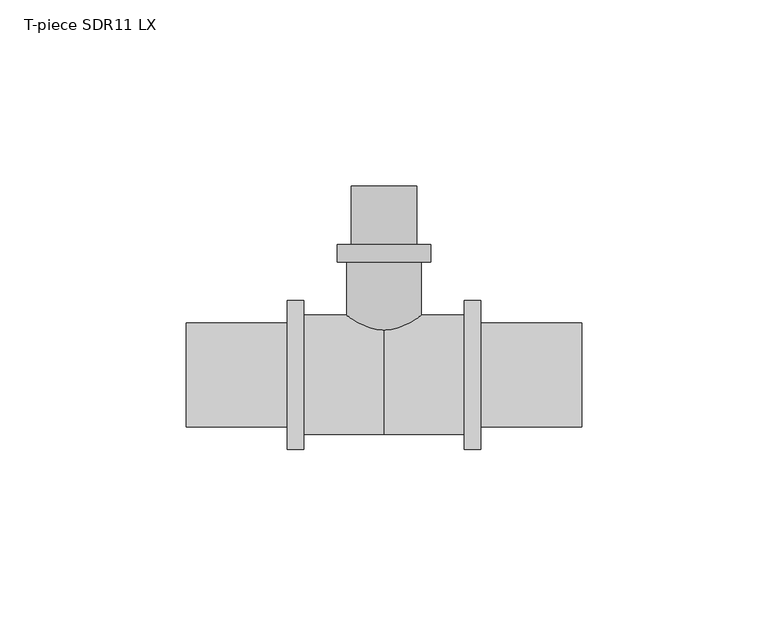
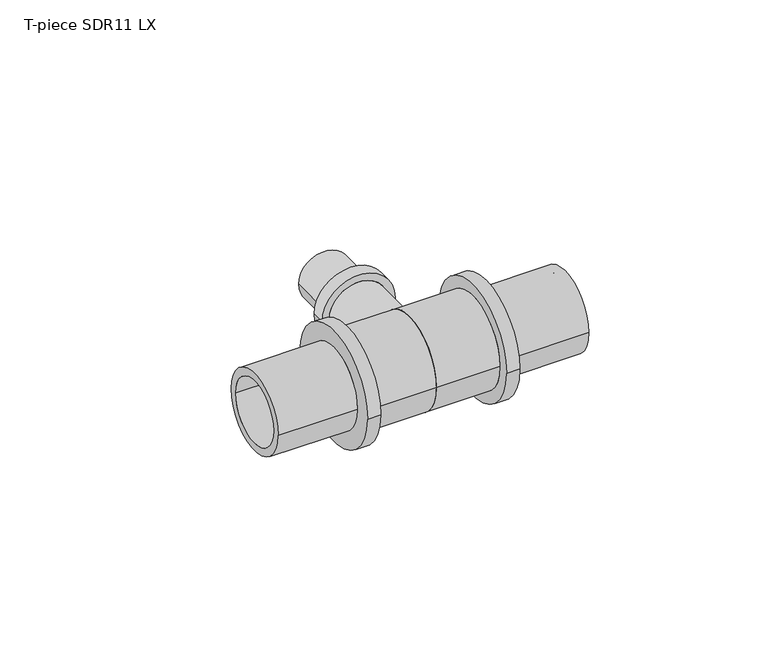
"""IFC4 building model written with IfcOpenShell, lengths in millimetres: pipe fitting geometry, T-piece SDR11 LX : T-piece LX SDR11 LX."""

from ifc_helpers import new_model, si_unit, point, frame, origin, place, context, project, spatial, polyline, circle_curve, ellipse_curve, trimmed, source, transform, mapped, element, save
from ifc_brep_helpers import plane_surface, cylinder_surface, revolved_surface, advanced_brep


def t_piece_sdr11_lx_472ff839(model_context):
    return source(origin(), model_context, "Body", "AdvancedBrep", [
        advanced_brep(
        [(10.0, 1.3944811, 0.0), (-10.0, 1.3944811, 0.0), (-10.0, 30.3, 0.0), (10.0, 30.3, 0.0), (6.8, 50.6, 0.0), (-6.8, 50.6, 0.0), (-6.8, 0.0, 0.0), (6.8, 0.0, 0.0), (8.8, 35.0, 0.0), (-8.8, 35.0, 0.0), (-8.8, 50.6, 0.0), (8.8, 50.6, 0.0), (12.5, 30.3, 0.0), (-12.5, 30.3, 0.0), (-12.5, 35.0, 0.0), (12.5, 35.0, 0.0)],
        [
            (0, 1, circle_curve(frame((0.0, 1.3944811, 0.0), z_axis=(0.0, 1.0, 0.0), x_axis=(-1.0, 0.0, 0.0)), 10.0)),
            (1, 2),
            (2, 3, circle_curve(frame((0.0, 30.3, 0.0), z_axis=(0.0, -1.0, 0.0), x_axis=(-1.0, 0.0, 0.0)), 10.0)),
            (3, 0),
            (4, 5, circle_curve(frame((0.0, 50.6, 0.0), z_axis=(0.0, 1.0, 0.0), x_axis=(-1.0, 0.0, 0.0)), 6.8)),
            (5, 6),
            (6, 7, circle_curve(frame((0.0, 0.0, 0.0), z_axis=(0.0, -1.0, 0.0), x_axis=(-1.0, 0.0, 0.0)), 6.8)),
            (7, 4),
            (8, 9, circle_curve(frame((0.0, 35.0, 0.0), z_axis=(0.0, 1.0, 0.0), x_axis=(-1.0, 0.0, 0.0)), 8.8)),
            (9, 10),
            (10, 11, circle_curve(frame((0.0, 50.6, 0.0), z_axis=(0.0, -1.0, 0.0), x_axis=(-1.0, 0.0, 0.0)), 8.8)),
            (11, 8),
            (12, 13, circle_curve(frame((0.0, 30.3, 0.0), z_axis=(0.0, 1.0, 0.0), x_axis=(-1.0, 0.0, 0.0)), 12.5)),
            (13, 14),
            (14, 15, circle_curve(frame((0.0, 35.0, 0.0), z_axis=(0.0, -1.0, 0.0), x_axis=(-1.0, 0.0, 0.0)), 12.5)),
            (15, 12),
            (12, 13, circle_curve(frame((0.0, 30.3, 0.0), z_axis=(0.0, -1.0, 0.0), x_axis=(1.0, 0.0, 0.0)), 12.5)),
            (2, 3, circle_curve(frame((0.0, 30.3, 0.0), z_axis=(0.0, 1.0, 0.0), x_axis=(1.0, 0.0, 0.0)), 10.0)),
            (1, 0, circle_curve(frame((0.0, 1.3944811, 0.0), z_axis=(0.0, 1.0, 0.0), x_axis=(1.0, 0.0, 0.0)), 10.0)),
            (5, 4, circle_curve(frame((0.0, 50.6, 0.0), z_axis=(0.0, 1.0, 0.0), x_axis=(1.0, 0.0, 0.0)), 6.8)),
            (7, 6, circle_curve(frame((0.0, 0.0, 0.0), z_axis=(0.0, -1.0, 0.0), x_axis=(1.0, 0.0, 0.0)), 6.8)),
            (10, 11, circle_curve(frame((0.0, 50.6, 0.0), z_axis=(0.0, 1.0, 0.0), x_axis=(1.0, 0.0, 0.0)), 8.8)),
            (9, 8, circle_curve(frame((0.0, 35.0, 0.0), z_axis=(0.0, 1.0, 0.0), x_axis=(1.0, 0.0, 0.0)), 8.8)),
            (14, 15, circle_curve(frame((0.0, 35.0, 0.0), z_axis=(0.0, 1.0, 0.0), x_axis=(1.0, 0.0, 0.0)), 12.5)),
            (6, 1, circle_curve(frame((-2.0462802, 15.2775046, 0.0), z_axis=(0.0, 0.0, -1.0), x_axis=(0.0, -1.0, 0.0)), 16.0)),
            (0, 7, circle_curve(frame((2.0462802, 15.2775046, 0.0), z_axis=(0.0, 0.0, -1.0), x_axis=(0.0, -1.0, 0.0)), 16.0)),
        ],
        [
            cylinder_surface(frame((0.0, 0.0, 0.0), z_axis=(0.0, -1.0, 0.0), x_axis=(-1.0, 0.0, 0.0)), 10.0),
            revolved_surface(polyline([(-6.8, 0.0, 0.0), (-6.8, 50.6, 0.0)]), (0.0, 0.0, 0.0), (0.0, -1.0, 0.0)),
            cylinder_surface(frame((0.0, 0.0, 0.0), z_axis=(0.0, -1.0, 0.0), x_axis=(-1.0, 0.0, 0.0)), 8.8),
            cylinder_surface(frame((0.0, 0.0, 0.0), z_axis=(0.0, -1.0, 0.0), x_axis=(-1.0, 0.0, 0.0)), 12.5),
            plane_surface(frame((0.0, 30.3, 0.0), z_axis=(0.0, -1.0, 0.0), x_axis=(1.0, 0.0, 0.0))),
            cylinder_surface(frame((0.0, 0.0, 0.0), z_axis=(0.0, -1.0, 0.0), x_axis=(1.0, 0.0, 0.0)), 10.0),
            revolved_surface(polyline([(6.8, 0.0, 0.0), (6.8, 50.6, 0.0)]), (0.0, 0.0, 0.0), (0.0, -1.0, 0.0)),
            plane_surface(frame((0.0, 50.6, 0.0), z_axis=(0.0, 1.0, 0.0), x_axis=(1.0, 0.0, 0.0))),
            cylinder_surface(frame((0.0, 0.0, 0.0), z_axis=(0.0, -1.0, 0.0), x_axis=(1.0, 0.0, 0.0)), 8.8),
            plane_surface(frame((0.0, 35.0, 0.0), z_axis=(0.0, 1.0, 0.0), x_axis=(1.0, 0.0, 0.0))),
            cylinder_surface(frame((0.0, 0.0, 0.0), z_axis=(0.0, -1.0, 0.0), x_axis=(1.0, 0.0, 0.0)), 12.5),
            revolved_surface(trimmed(ellipse_curve(frame((-2.0462802, 15.2775046, 0.0), z_axis=(0.0, 0.0, 1.0), x_axis=(0.0, -1.0, 0.0)), 16.0, 16.0), [point((-10.0, 1.3944811, 0.0))], [point((-6.8, 0.0, 0.0))], True, "CARTESIAN"), (0.0, 0.0, 0.0), (0.0, -1.0, 0.0)),
            revolved_surface(trimmed(ellipse_curve(frame((2.0462802, 15.2775046, 0.0), z_axis=(0.0, 0.0, -1.0), x_axis=(0.0, -1.0, 0.0)), 16.0, 16.0), [point((10.0, 1.3944811, 0.0))], [point((6.8, 0.0, 0.0))], True, "CARTESIAN"), (0.0, 0.0, 0.0), (0.0, -1.0, 0.0)),
        ],
        [
            (0, [[1, 2, 3, 4]]),
            (1, [[5, 6, 7, 8]]),
            (2, [[9, 10, 11, 12]]),
            (3, [[13, 14, 15, 16]]),
            (4, [[17, -13], [18, -3]]),
            (5, [[19, -4, -18, -2]]),
            (6, [[20, -8, 21, -6]]),
            (7, [[22, -11], [-20, -5]]),
            (8, [[23, -12, -22, -10]]),
            (9, [[24, -15], [-23, -9]]),
            (10, [[-17, -16, -24, -14]]),
            (11, [[-7, 25, -1, 26]]),
            (12, [[-21, -26, -19, -25]]),
        ],
    ),
        advanced_brep(
        [(21.5, 16.0, 0.0), (21.5, -16.0, 0.0), (0.0, -16.0, 0.0), (0.0, 16.0, 0.0), (0.0, 11.2, 0.0), (0.0, -11.2, 0.0), (53.0, -11.2, 0.0), (53.0, 11.2, 0.0), (53.0, 13.95, 0.0), (53.0, -13.95, 0.0), (26.0, -13.95, 0.0), (26.0, 13.95, 0.0), (26.0, 20.0, 0.0), (26.0, -20.0, 0.0), (21.5, -20.0, 0.0), (21.5, 20.0, 0.0)],
        [
            (0, 1, circle_curve(frame((21.5, 0.0, 0.0), z_axis=(-1.0, 0.0, 0.0), x_axis=(0.0, -1.0, 0.0)), 16.0)),
            (1, 2),
            (2, 3, circle_curve(frame((0.0, 0.0, 0.0), z_axis=(1.0, 0.0, 0.0), x_axis=(0.0, -1.0, 0.0)), 16.0)),
            (3, 0),
            (4, 5, circle_curve(frame((0.0, 0.0, 0.0), z_axis=(-1.0, 0.0, 0.0), x_axis=(0.0, -1.0, 0.0)), 11.2)),
            (5, 6),
            (6, 7, circle_curve(frame((53.0, 0.0, 0.0), z_axis=(1.0, 0.0, 0.0), x_axis=(0.0, -1.0, 0.0)), 11.2)),
            (7, 4),
            (8, 9, circle_curve(frame((53.0, 0.0, 0.0), z_axis=(-1.0, 0.0, 0.0), x_axis=(0.0, -1.0, 0.0)), 13.95)),
            (9, 10),
            (10, 11, circle_curve(frame((26.0, 0.0, 0.0), z_axis=(1.0, 0.0, 0.0), x_axis=(0.0, -1.0, 0.0)), 13.95)),
            (11, 8),
            (12, 13, circle_curve(frame((26.0, 0.0, 0.0), z_axis=(-1.0, 0.0, 0.0), x_axis=(0.0, -1.0, 0.0)), 20.0)),
            (13, 14),
            (14, 15, circle_curve(frame((21.5, 0.0, 0.0), z_axis=(1.0, 0.0, 0.0), x_axis=(0.0, -1.0, 0.0)), 20.0)),
            (15, 12),
            (14, 15, circle_curve(frame((21.5, 0.0, 0.0), z_axis=(-1.0, 0.0, 0.0), x_axis=(0.0, 1.0, 0.0)), 20.0)),
            (0, 1, circle_curve(frame((21.5, 0.0, 0.0), z_axis=(1.0, 0.0, 0.0), x_axis=(0.0, 1.0, 0.0)), 16.0)),
            (3, 2, circle_curve(frame((0.0, 0.0, 0.0), z_axis=(1.0, 0.0, 0.0), x_axis=(0.0, 1.0, 0.0)), 16.0)),
            (4, 5, circle_curve(frame((0.0, 0.0, 0.0), z_axis=(1.0, 0.0, 0.0), x_axis=(0.0, 1.0, 0.0)), 11.2)),
            (7, 6, circle_curve(frame((53.0, 0.0, 0.0), z_axis=(1.0, 0.0, 0.0), x_axis=(0.0, 1.0, 0.0)), 11.2)),
            (8, 9, circle_curve(frame((53.0, 0.0, 0.0), z_axis=(1.0, 0.0, 0.0), x_axis=(0.0, 1.0, 0.0)), 13.95)),
            (11, 10, circle_curve(frame((26.0, 0.0, 0.0), z_axis=(1.0, 0.0, 0.0), x_axis=(0.0, 1.0, 0.0)), 13.95)),
            (12, 13, circle_curve(frame((26.0, 0.0, 0.0), z_axis=(1.0, 0.0, 0.0), x_axis=(0.0, 1.0, 0.0)), 20.0)),
        ],
        [
            cylinder_surface(frame((0.0, 0.0, 0.0), z_axis=(1.0, 0.0, 0.0), x_axis=(0.0, -1.0, 0.0)), 16.0),
            revolved_surface(polyline([(53.0, -11.2, 0.0), (0.0, -11.2, 0.0)]), (0.0, 0.0, 0.0), (1.0, 0.0, 0.0)),
            cylinder_surface(frame((0.0, 0.0, 0.0), z_axis=(1.0, 0.0, 0.0), x_axis=(0.0, -1.0, 0.0)), 13.95),
            cylinder_surface(frame((0.0, 0.0, 0.0), z_axis=(1.0, 0.0, 0.0), x_axis=(0.0, -1.0, 0.0)), 20.0),
            plane_surface(frame((21.5, 0.0, 0.0), z_axis=(-1.0, 0.0, 0.0), x_axis=(0.0, 1.0, 0.0))),
            cylinder_surface(frame((0.0, 0.0, 0.0), z_axis=(1.0, 0.0, 0.0), x_axis=(0.0, 1.0, 0.0)), 16.0),
            plane_surface(frame((0.0, 0.0, 0.0), z_axis=(-1.0, 0.0, 0.0), x_axis=(0.0, 1.0, 0.0))),
            revolved_surface(polyline([(53.0, 11.2, 0.0), (0.0, 11.2, 0.0)]), (0.0, 0.0, 0.0), (1.0, 0.0, 0.0)),
            plane_surface(frame((53.0, 0.0, 0.0), z_axis=(1.0, 0.0, 0.0), x_axis=(0.0, 1.0, 0.0))),
            cylinder_surface(frame((0.0, 0.0, 0.0), z_axis=(1.0, 0.0, 0.0), x_axis=(0.0, 1.0, 0.0)), 13.95),
            plane_surface(frame((26.0, 0.0, 0.0), z_axis=(1.0, 0.0, 0.0), x_axis=(0.0, 1.0, 0.0))),
            cylinder_surface(frame((0.0, 0.0, 0.0), z_axis=(1.0, 0.0, 0.0), x_axis=(0.0, 1.0, 0.0)), 20.0),
        ],
        [
            (0, [[1, 2, 3, 4]]),
            (1, [[5, 6, 7, 8]]),
            (2, [[9, 10, 11, 12]]),
            (3, [[13, 14, 15, 16]]),
            (4, [[17, -15], [18, -1]]),
            (5, [[-18, -4, 19, -2]]),
            (6, [[-19, -3], [20, -5]]),
            (7, [[-20, -8, 21, -6]]),
            (8, [[22, -9], [-21, -7]]),
            (9, [[-22, -12, 23, -10]]),
            (10, [[24, -13], [-23, -11]]),
            (11, [[-24, -16, -17, -14]]),
        ],
    ),
        advanced_brep(
        [(0.0, 16.0, 0.0), (0.0, -16.0, 0.0), (-21.5, -16.0, 0.0), (-21.5, 16.0, 0.0), (-53.0, 11.2, 0.0), (-53.0, -11.2, 0.0), (0.0, -11.2, 0.0), (0.0, 11.2, 0.0), (-26.0, 13.95, 0.0), (-26.0, -13.95, 0.0), (-53.0, -13.95, 0.0), (-53.0, 13.95, 0.0), (-21.5, 20.0, 0.0), (-21.5, -20.0, 0.0), (-26.0, -20.0, 0.0), (-26.0, 20.0, 0.0)],
        [
            (0, 1, circle_curve(frame((0.0, 0.0, 0.0), z_axis=(-1.0, 0.0, 0.0), x_axis=(0.0, -1.0, 0.0)), 16.0)),
            (1, 2),
            (2, 3, circle_curve(frame((-21.5, 0.0, 0.0), z_axis=(1.0, 0.0, 0.0), x_axis=(0.0, -1.0, 0.0)), 16.0)),
            (3, 0),
            (4, 5, circle_curve(frame((-53.0, 0.0, 0.0), z_axis=(-1.0, 0.0, 0.0), x_axis=(0.0, -1.0, 0.0)), 11.2)),
            (5, 6),
            (6, 7, circle_curve(frame((0.0, 0.0, 0.0), z_axis=(1.0, 0.0, 0.0), x_axis=(0.0, -1.0, 0.0)), 11.2)),
            (7, 4),
            (8, 9, circle_curve(frame((-26.0, 0.0, 0.0), z_axis=(-1.0, 0.0, 0.0), x_axis=(0.0, -1.0, 0.0)), 13.95)),
            (9, 10),
            (10, 11, circle_curve(frame((-53.0, 0.0, 0.0), z_axis=(1.0, 0.0, 0.0), x_axis=(0.0, -1.0, 0.0)), 13.95)),
            (11, 8),
            (12, 13, circle_curve(frame((-21.5, 0.0, 0.0), z_axis=(-1.0, 0.0, 0.0), x_axis=(0.0, -1.0, 0.0)), 20.0)),
            (13, 14),
            (14, 15, circle_curve(frame((-26.0, 0.0, 0.0), z_axis=(1.0, 0.0, 0.0), x_axis=(0.0, -1.0, 0.0)), 20.0)),
            (15, 12),
            (12, 13, circle_curve(frame((-21.5, 0.0, 0.0), z_axis=(1.0, 0.0, 0.0), x_axis=(0.0, 1.0, 0.0)), 20.0)),
            (2, 3, circle_curve(frame((-21.5, 0.0, 0.0), z_axis=(-1.0, 0.0, 0.0), x_axis=(0.0, 1.0, 0.0)), 16.0)),
            (1, 0, circle_curve(frame((0.0, 0.0, 0.0), z_axis=(-1.0, 0.0, 0.0), x_axis=(0.0, 1.0, 0.0)), 16.0)),
            (6, 7, circle_curve(frame((0.0, 0.0, 0.0), z_axis=(-1.0, 0.0, 0.0), x_axis=(0.0, 1.0, 0.0)), 11.2)),
            (5, 4, circle_curve(frame((-53.0, 0.0, 0.0), z_axis=(-1.0, 0.0, 0.0), x_axis=(0.0, 1.0, 0.0)), 11.2)),
            (10, 11, circle_curve(frame((-53.0, 0.0, 0.0), z_axis=(-1.0, 0.0, 0.0), x_axis=(0.0, 1.0, 0.0)), 13.95)),
            (9, 8, circle_curve(frame((-26.0, 0.0, 0.0), z_axis=(-1.0, 0.0, 0.0), x_axis=(0.0, 1.0, 0.0)), 13.95)),
            (14, 15, circle_curve(frame((-26.0, 0.0, 0.0), z_axis=(-1.0, 0.0, 0.0), x_axis=(0.0, 1.0, 0.0)), 20.0)),
        ],
        [
            cylinder_surface(frame((0.0, 0.0, 0.0), z_axis=(1.0, 0.0, 0.0), x_axis=(0.0, -1.0, 0.0)), 16.0),
            revolved_surface(polyline([(0.0, -11.2, 0.0), (-53.0, -11.2, 0.0)]), (0.0, 0.0, 0.0), (1.0, 0.0, 0.0)),
            cylinder_surface(frame((0.0, 0.0, 0.0), z_axis=(1.0, 0.0, 0.0), x_axis=(0.0, -1.0, 0.0)), 13.95),
            cylinder_surface(frame((0.0, 0.0, 0.0), z_axis=(1.0, 0.0, 0.0), x_axis=(0.0, -1.0, 0.0)), 20.0),
            plane_surface(frame((-21.5, 0.0, 0.0), z_axis=(1.0, 0.0, 0.0), x_axis=(0.0, 1.0, 0.0))),
            cylinder_surface(frame((0.0, 0.0, 0.0), z_axis=(1.0, 0.0, 0.0), x_axis=(0.0, 1.0, 0.0)), 16.0),
            plane_surface(frame((0.0, 0.0, 0.0), z_axis=(1.0, 0.0, 0.0), x_axis=(0.0, 1.0, 0.0))),
            revolved_surface(polyline([(0.0, 11.2, 0.0), (-53.0, 11.2, 0.0)]), (0.0, 0.0, 0.0), (1.0, 0.0, 0.0)),
            plane_surface(frame((-53.0, 0.0, 0.0), z_axis=(-1.0, 0.0, 0.0), x_axis=(0.0, 1.0, 0.0))),
            cylinder_surface(frame((0.0, 0.0, 0.0), z_axis=(1.0, 0.0, 0.0), x_axis=(0.0, 1.0, 0.0)), 13.95),
            plane_surface(frame((-26.0, 0.0, 0.0), z_axis=(-1.0, 0.0, 0.0), x_axis=(0.0, 1.0, 0.0))),
            cylinder_surface(frame((0.0, 0.0, 0.0), z_axis=(1.0, 0.0, 0.0), x_axis=(0.0, 1.0, 0.0)), 20.0),
        ],
        [
            (0, [[1, 2, 3, 4]]),
            (1, [[5, 6, 7, 8]]),
            (2, [[9, 10, 11, 12]]),
            (3, [[13, 14, 15, 16]]),
            (4, [[17, -13], [18, -3]]),
            (5, [[19, -4, -18, -2]]),
            (6, [[-19, -1], [20, -7]]),
            (7, [[21, -8, -20, -6]]),
            (8, [[22, -11], [-21, -5]]),
            (9, [[23, -12, -22, -10]]),
            (10, [[24, -15], [-23, -9]]),
            (11, [[-17, -16, -24, -14]]),
        ],
    ),
    ])


if __name__ == "__main__":
    model = new_model("IFC4")
    model_context = context("Model", 3, world=origin())
    ifc_project = project(units=[si_unit("LENGTHUNIT", "METRE", prefix="MILLI")], contexts=[model_context])
    site = spatial("IfcSite", under=ifc_project)
    building = spatial("IfcBuilding", under=site)
    placement = place(None, origin())
    t_piece_sdr11_lx_shape = t_piece_sdr11_lx_472ff839(model_context)
    element("IfcPipeFitting", 1, ObjectType="T-piece SDR11 LX : T-piece LX SDR11 LX", at=placement, inside=building, context=model_context, shape_type="MappedRepresentation", body=[
        mapped(t_piece_sdr11_lx_shape, transform((0.0, 0.0, 0.0), x_axis=(1.0, 0.0, 0.0), y_axis=(0.0, 1.0, 0.0), z_axis=(0.0, 0.0, 1.0))),
    ])
    save(model, "model.ifc")
